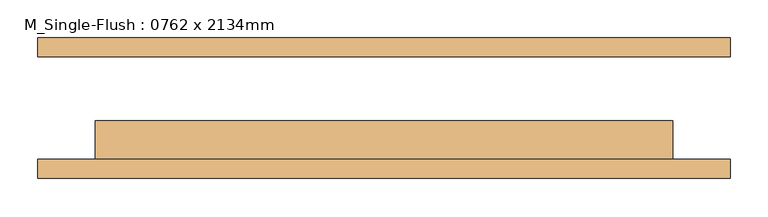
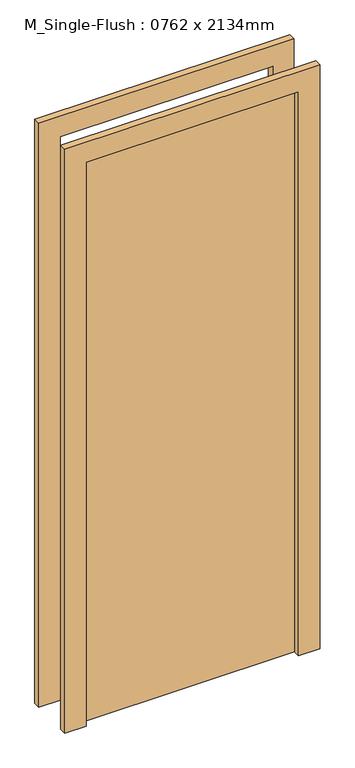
"""IFC4 building model written with IfcOpenShell, lengths in millimetres: door geometry, M_Single-Flush : 0762 x 2134mm."""

from ifc_helpers import new_model, si_unit, frame, origin, origin_with_axes, place, context, project, spatial, polyline, outline, extrude, source, transform, mapped, element, save


def m_single_flush_0762_x_2134mm_a28375c7(model_context):
    return source(origin(), model_context, "Body", "SweptSolid", [
        extrude(outline(polyline([(2210.0, -457.0), (0.0, -457.0), (0.0, -381.0), (2134.0, -381.0), (2134.0, 381.0), (0.0, 381.0), (0.0, 457.0), (2210.0, 457.0), (2210.0, -457.0)])), frame((0.0, -92.75, 0.0), z_axis=(0.0, 1.0, 0.0), x_axis=(0.0, 0.0, 1.0)), (0.0, 0.0, 1.0), 25.0),
        extrude(outline(polyline([(2210.0, 457.0), (2210.0, -457.0), (0.0, -457.0), (0.0, -381.0), (2134.0, -381.0), (2134.0, 381.0), (0.0, 381.0), (0.0, 457.0), (2210.0, 457.0)])), frame((0.0, 67.75, 0.0), z_axis=(0.0, 1.0, 0.0), x_axis=(0.0, 0.0, 1.0)), (0.0, 0.0, 1.0), 25.0),
        extrude(outline(polyline([(381.0, -16.75), (381.0, -67.75), (-381.0, -67.75), (-381.0, -16.75), (381.0, -16.75)])), origin_with_axes(), (0.0, 0.0, 1.0), 2134.0),
    ])


if __name__ == "__main__":
    model = new_model("IFC4")
    model_context = context("Model", 3, world=origin())
    ifc_project = project(units=[si_unit("LENGTHUNIT", "METRE", prefix="MILLI")], contexts=[model_context])
    site = spatial("IfcSite", under=ifc_project)
    building = spatial("IfcBuilding", under=site)
    placement = place(None, origin())
    m_single_flush_0762_x_2134mm_shape = m_single_flush_0762_x_2134mm_a28375c7(model_context)
    element("IfcDoor", 1, ObjectType="M_Single-Flush : 0762 x 2134mm", at=placement, inside=building, context=model_context, shape_type="MappedRepresentation", body=[
        mapped(m_single_flush_0762_x_2134mm_shape, transform((0.0, 0.0, 0.0), x_axis=(1.0, 0.0, 0.0), y_axis=(0.0, 1.0, 0.0), z_axis=(0.0, 0.0, 1.0))),
    ])
    save(model, "model.ifc")
